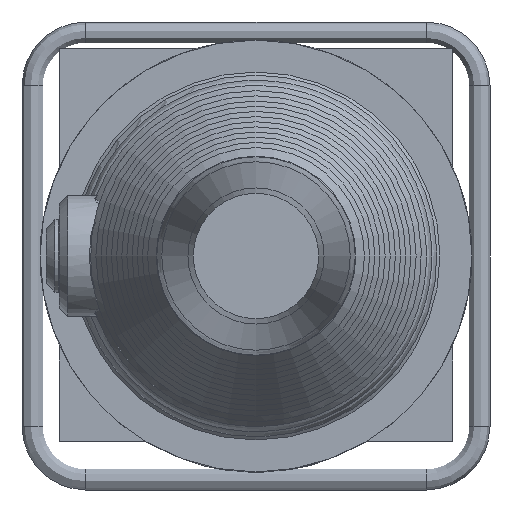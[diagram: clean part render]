
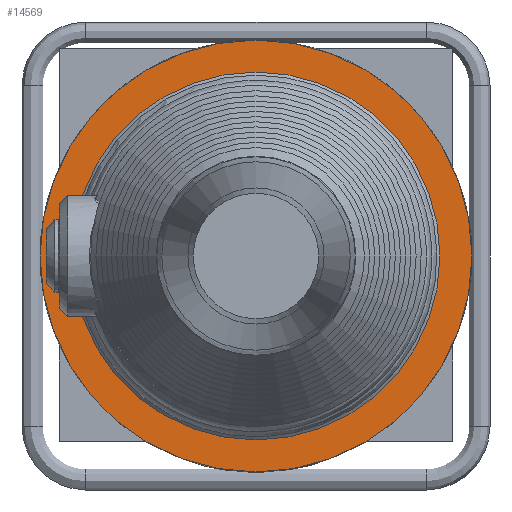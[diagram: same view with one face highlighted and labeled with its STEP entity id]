
A CAD part, left-side view. The second image highlights one B-rep face of the part: STEP entity #14569.
In plain terms, the highlighted planar face has unit normal (-1, 0, 0).
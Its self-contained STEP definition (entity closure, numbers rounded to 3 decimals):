
#1495=PLANE('',#15326);
#3497=FACE_BOUND('',#5271,.T.);
#4310=FACE_OUTER_BOUND('',#5270,.T.);
#5270=EDGE_LOOP('',(#13242));
#5271=EDGE_LOOP('',(#13243));
#5697=CIRCLE('',#15262,101.5);
#5718=CIRCLE('',#15327,86.466);
#7116=VERTEX_POINT('',#34326);
#7145=VERTEX_POINT('',#36328);
#9156=EDGE_CURVE('',#7116,#7116,#5697,.T.);
#9199=EDGE_CURVE('',#7145,#7145,#5718,.T.);
#13242=ORIENTED_EDGE('',*,*,#9156,.F.);
#13243=ORIENTED_EDGE('',*,*,#9199,.T.);
#14569=ADVANCED_FACE('',(#4310,#3497),#1495,.T.);
#15262=AXIS2_PLACEMENT_3D('',#34327,#17573,#17574);
#15326=AXIS2_PLACEMENT_3D('',#36327,#17722,#17723);
#15327=AXIS2_PLACEMENT_3D('',#36329,#17724,#17725);
#17573=DIRECTION('center_axis',(1.,0.,0.));
#17574=DIRECTION('ref_axis',(0.,0.,
1.));
#17722=DIRECTION('center_axis',(-1.,0.,0.));
#17723=DIRECTION('ref_axis',(0.,1.,0.));
#17724=DIRECTION('center_axis',(1.,0.,0.));
#17725=DIRECTION('ref_axis',(0.,0.,
1.));
#34326=CARTESIAN_POINT('',(-345.651,0.,101.5));
#34327=CARTESIAN_POINT('Origin',(-345.651,0.,
0.));
#36327=CARTESIAN_POINT('Origin',(-345.651,0.,
93.983));
#36328=CARTESIAN_POINT('',(-345.651,0.,86.466));
#36329=CARTESIAN_POINT('Origin',(-345.651,0.,
0.));
